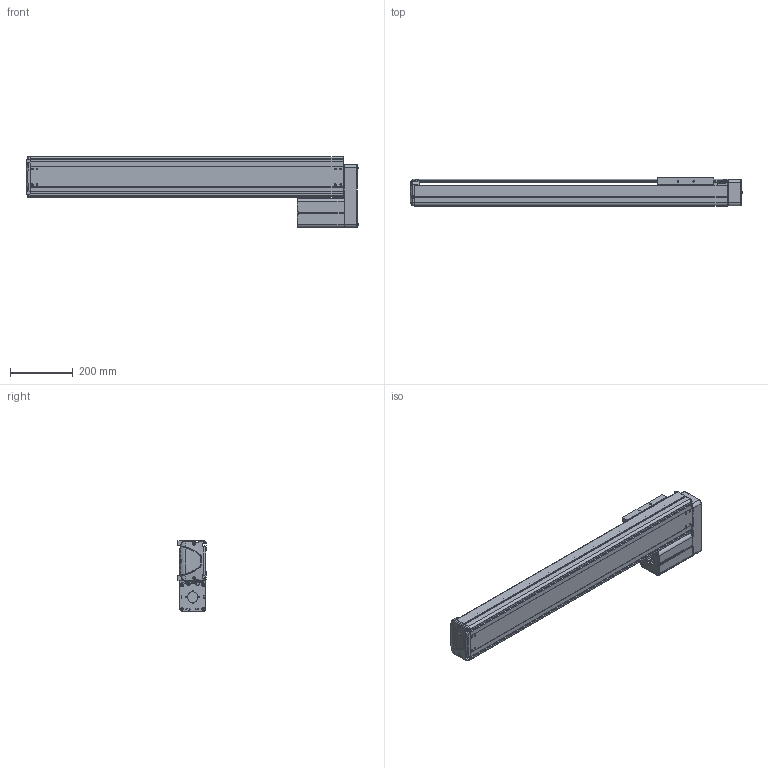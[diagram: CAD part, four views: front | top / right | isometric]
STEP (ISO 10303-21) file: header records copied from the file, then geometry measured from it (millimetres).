
FILE_DESCRIPTION((''),'2;1');
FILE_NAME('BE30E-UL-L_N-75_IGS_PRT','2017-06-17T',(' '),(''),'PRO/ENGINEER BY PARAMETRIC TECHNOLOGY CORPORATION, 2015030','PRO/ENGINEER BY PARAMETRIC TECHNOLOGY CORPORATION, 2015030','');
FILE_SCHEMA(('CONFIG_CONTROL_DESIGN'));
Length unit declared in the file: millimetre
Products named in the file (1): BE30E-UL-L_N-75_IGS_PRT
Bounding box: 1061.9 x 89.8 x 227 mm (x, y, z)
Volume: 3588724.2 mm3; surface area: 1534956.1 mm2
Topology: 2 solids, 127 shells, 2055 faces, 5548 edges, 3610 vertices
Faces by surface type: plane 998, cylinder 867, cone 101, torus 37, bspline 28, sphere 24
Entity records: 66675 total; most frequent: CARTESIAN_POINT 14136, DIRECTION 11107, ORIENTED_EDGE 10545, EDGE_CURVE 5510, AXIS2_PLACEMENT_3D 3924, VERTEX_POINT 3610, VECTOR 3259, LINE 3259
